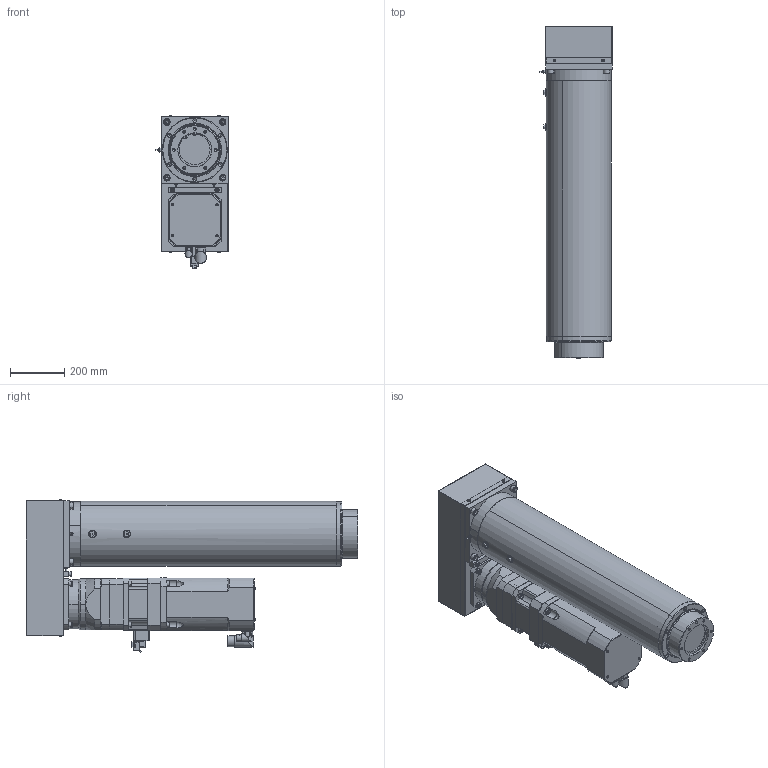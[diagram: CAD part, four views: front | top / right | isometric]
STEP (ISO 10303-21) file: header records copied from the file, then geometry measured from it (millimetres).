
FILE_DESCRIPTION (( 'STEP AP203' ), '1' );
FILE_NAME ('LN5P2000-055-010SG.STEP', '2019-01-31T13:44:23', ( '' ), ( '' ), 'SwSTEP 2.0', 'SolidWorks 2016', '' );
FILE_SCHEMA (( 'CONFIG_CONTROL_DESIGN' ));
Length unit declared in the file: millimetre
Products named in the file (1): LN5P2000-055-010SG
Bounding box: 267.25 x 1226.5 x 565.64 mm (x, y, z)
Surface area: 4764238.3 mm2 (no closed solid volume)
Topology: 0 solids, 55 shells, 1946 faces, 4569 edges, 2768 vertices
Faces by surface type: plane 848, cylinder 716, cone 290, torus 82, bspline 10
Entity records: 56440 total; most frequent: CARTESIAN_POINT 11368, DIRECTION 9964, ORIENTED_EDGE 8770, EDGE_CURVE 4391, AXIS2_PLACEMENT_3D 3788, VERTEX_POINT 2768, VECTOR 2388, LINE 2388
